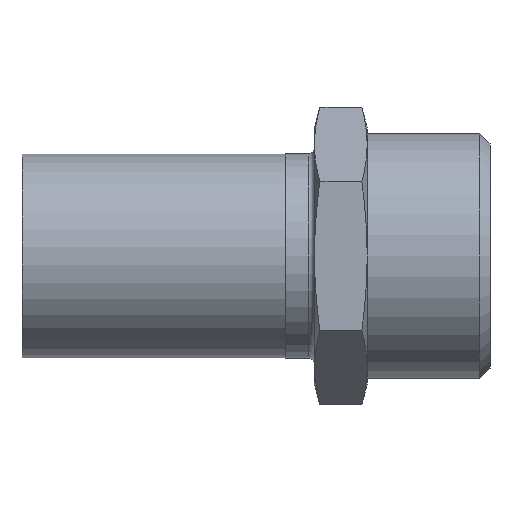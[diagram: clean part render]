
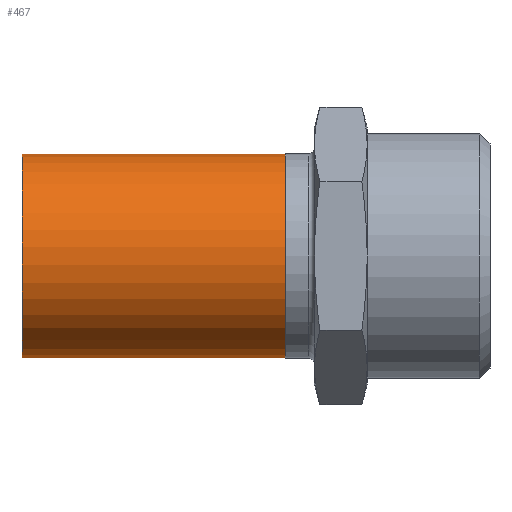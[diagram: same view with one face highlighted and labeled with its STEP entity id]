
A CAD part, front view. The second image highlights one B-rep face of the part: STEP entity #467.
In plain terms, the highlighted cylindrical face has radius 17.5 mm (diameter 35 mm), a partial arc.
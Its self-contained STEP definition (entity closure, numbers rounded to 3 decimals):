
#24 = VERTEX_POINT ( 'NONE', #156 ) ;
#59 = CARTESIAN_POINT ( 'NONE',  ( 0., 0., 0. ) ) ;
#70 = CARTESIAN_POINT ( 'NONE',  ( 17.5, 0., 45. ) ) ;
#130 = FACE_OUTER_BOUND ( 'NONE', #166, .T. ) ;
#131 = ORIENTED_EDGE ( 'NONE', *, *, #1193, .T. ) ;
#146 = EDGE_CURVE ( 'NONE', #24, #981, #641, .T. ) ;
#152 = ORIENTED_EDGE ( 'NONE', *, *, #611, .F. ) ;
#156 = CARTESIAN_POINT ( 'NONE',  ( 17.5, 0., 45. ) ) ;
#166 = EDGE_LOOP ( 'NONE', ( #343, #152, #1185, #131 ) ) ;
#196 = DIRECTION ( 'NONE',  ( 0., 0., -1. ) ) ;
#204 = CIRCLE ( 'NONE', #1279, 17.5 ) ;
#215 = DIRECTION ( 'NONE',  ( 1., 0., 0. ) ) ;
#299 = DIRECTION ( 'NONE',  ( 0., 0., -1. ) ) ;
#308 = VERTEX_POINT ( 'NONE', #344 ) ;
#343 = ORIENTED_EDGE ( 'NONE', *, *, #146, .F. ) ;
#344 = CARTESIAN_POINT ( 'NONE',  ( -17.5, 0., 45. ) ) ;
#446 = EDGE_CURVE ( 'NONE', #308, #535, #718, .T. ) ;
#467 = ADVANCED_FACE ( 'NONE', ( #130 ), #1377, .T. ) ;
#532 = CARTESIAN_POINT ( 'NONE',  ( 17.5, 0., 0. ) ) ;
#535 = VERTEX_POINT ( 'NONE', #1430 ) ;
#600 = DIRECTION ( 'NONE',  ( 0., 0., 1. ) ) ;
#611 = EDGE_CURVE ( 'NONE', #308, #24, #1417, .T. ) ;
#641 = LINE ( 'NONE', #70, #1119 ) ;
#669 = DIRECTION ( 'NONE',  ( 0., 0., 1. ) ) ;
#718 = LINE ( 'NONE', #1287, #1456 ) ;
#731 = AXIS2_PLACEMENT_3D ( 'NONE', #1064, #600, #215 ) ;
#805 = DIRECTION ( 'NONE',  ( 0., 0., -1. ) ) ;
#812 = DIRECTION ( 'NONE',  ( 1., 0., 0. ) ) ;
#981 = VERTEX_POINT ( 'NONE', #532 ) ;
#986 = AXIS2_PLACEMENT_3D ( 'NONE', #1280, #196, #1400 ) ;
#1064 = CARTESIAN_POINT ( 'NONE',  ( 0., 0., 45. ) ) ;
#1119 = VECTOR ( 'NONE', #299, 1000. ) ;
#1185 = ORIENTED_EDGE ( 'NONE', *, *, #446, .T. ) ;
#1193 = EDGE_CURVE ( 'NONE', #535, #981, #204, .T. ) ;
#1279 = AXIS2_PLACEMENT_3D ( 'NONE', #59, #669, #812 ) ;
#1280 = CARTESIAN_POINT ( 'NONE',  ( 0., 0., 45. ) ) ;
#1287 = CARTESIAN_POINT ( 'NONE',  ( -17.5, 0., 45. ) ) ;
#1377 = CYLINDRICAL_SURFACE ( 'NONE', #986, 17.5 ) ;
#1400 = DIRECTION ( 'NONE',  ( -1., 0., 0. ) ) ;
#1417 = CIRCLE ( 'NONE', #731, 17.5 ) ;
#1430 = CARTESIAN_POINT ( 'NONE',  ( -17.5, 0., 0. ) ) ;
#1456 = VECTOR ( 'NONE', #805, 1000. ) ;
